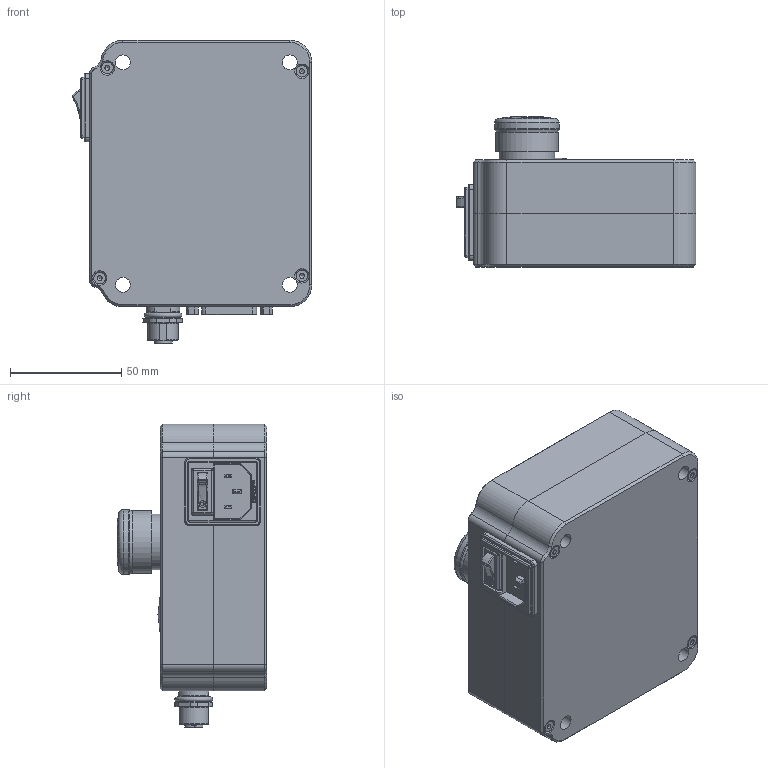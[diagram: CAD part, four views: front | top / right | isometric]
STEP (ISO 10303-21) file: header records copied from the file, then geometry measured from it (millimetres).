
FILE_DESCRIPTION(/* description */ (''),/* implementation_level */ '2;1');
FILE_NAME(/* name */ 'Power supply Meca500_Simplify_1.stp',/* time_stamp */ '2023-11-13T10:27:35-05:00',/* author */ ('jcoulombe'),/* organization */ (''),/* preprocessor_version */ 'ST-DEVELOPER v20',/* originating_system */ 'Autodesk Inventor 2024',/* authorisation */ '');
FILE_SCHEMA (('AUTOMOTIVE_DESIGN { 1 0 10303 214 3 1 1 }'));
Products named in the file (1): Power supply Meca500_Simplify_1
Bounding box: 107.89 x 67.4 x 136.6 mm (x, y, z)
Volume: 574165.2 mm3; surface area: 56519.9 mm2
Topology: 3 solids, 17 shells, 7268 faces, 19311 edges, 12816 vertices
Faces by surface type: plane 4719, bspline 2176, cylinder 251, cone 67, torus 44, sphere 11
Full cylindrical faces by diameter (mm): 1.008 x2, 1.143 x15, 1.596 x1, 1.8 x2, 2.156 x2, 2.464 x3, 3.002 x1, 5.2 x4, 5.6 x2, 6.655 x8, 8.2 x1, 10.917 x1, 11 x5, 12.2 x1, 13 x2, 25.1 x1, 25.25 x1, 28 x1, 29 x1, 43 x1
Entity records: 261144 total; most frequent: CARTESIAN_POINT 87205, ORIENTED_EDGE 38580, DIRECTION 25923, EDGE_CURVE 19290, LINE 14135, VECTOR 14135, VERTEX_POINT 12816, EDGE_LOOP 8042
